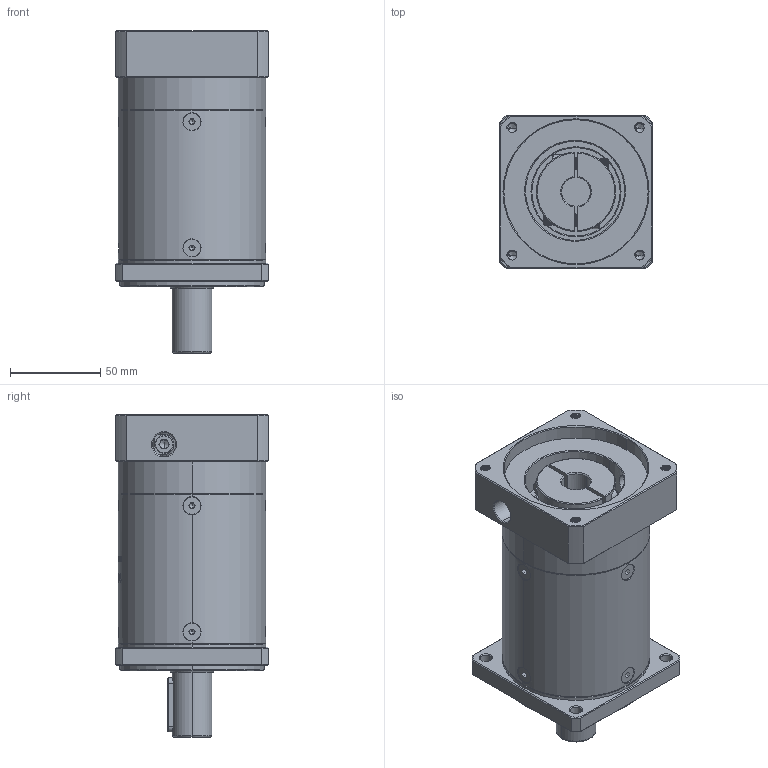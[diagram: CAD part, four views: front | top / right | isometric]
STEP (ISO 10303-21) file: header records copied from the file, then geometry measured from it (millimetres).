
FILE_DESCRIPTION (( 'STEP AP214' ), '1' );
FILE_NAME ('ZF80-D22-L3-16-80-100-M6.step', '2022-05-08T09:18:58', ( '' ), ( 'Microsoft' ), 'SwSTEP 2.0', 'SolidWorks 2016', '' );
FILE_SCHEMA (( 'AUTOMOTIVE_DESIGN' ));
Length unit declared in the file: millimetre
Products named in the file (1): ZF80-D22-L3-16-80-100-M6
Bounding box: 85 x 85 x 179 mm (x, y, z)
Volume: 744153.6 mm3; surface area: 99369.6 mm2
Topology: 13 solids, 13 shells, 1978 faces, 5110 edges, 3226 vertices
Faces by surface type: plane 896, cylinder 408, cone 337, bspline 320, torus 17
Entity records: 107661 total; most frequent: CARTESIAN_POINT 41319, ORIENTED_EDGE 10160, DIRECTION 8004, EDGE_CURVE 5080, VERTEX_POINT 3226, VECTOR 2760, LINE 2760, AXIS2_PLACEMENT_3D 2622
